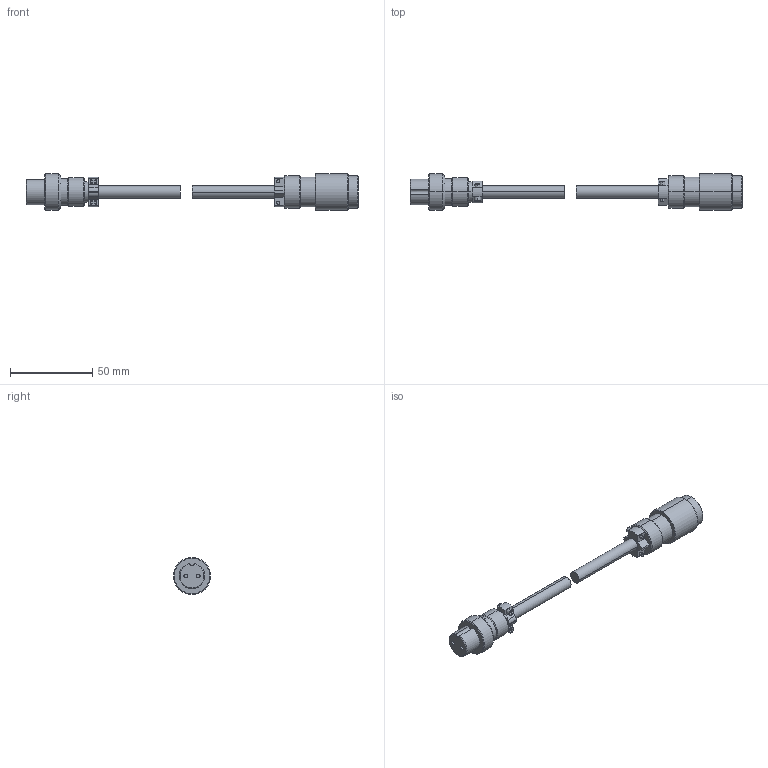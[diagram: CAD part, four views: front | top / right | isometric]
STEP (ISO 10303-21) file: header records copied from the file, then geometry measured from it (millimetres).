
FILE_DESCRIPTION((''),'2;1');
FILE_NAME('MV-LW-005-1-B19_ASM','2022-01-18T',('win7'),(''),'PRO/ENGINEER BY PARAMETRIC TECHNOLOGY CORPORATION, 2010100','PRO/ENGINEER BY PARAMETRIC TECHNOLOGY CORPORATION, 2010100','');
FILE_SCHEMA(('CONFIG_CONTROL_DESIGN'));
Length unit declared in the file: millimetre
Products named in the file (3): 19M-2K-; 19M-2A-; MV-LW-005-1-B19_ASM
Assembly tree (2 placements, depth 2):
  MV-LW-005-1-B19_ASM
    19M-2K-
    19M-2A-
Bounding box: 202 x 22.5 x 22.5 mm (x, y, z)
Volume: 28981.2 mm3; surface area: 10755.9 mm2
Topology: 2 solids, 2 shells, 202 faces, 485 edges, 310 vertices
Faces by surface type: plane 112, cylinder 57, cone 33
Entity records: 5948 total; most frequent: DIRECTION 1066, CARTESIAN_POINT 1008, ORIENTED_EDGE 970, EDGE_CURVE 485, AXIS2_PLACEMENT_3D 376, VECTOR 314, LINE 314, VERTEX_POINT 310
